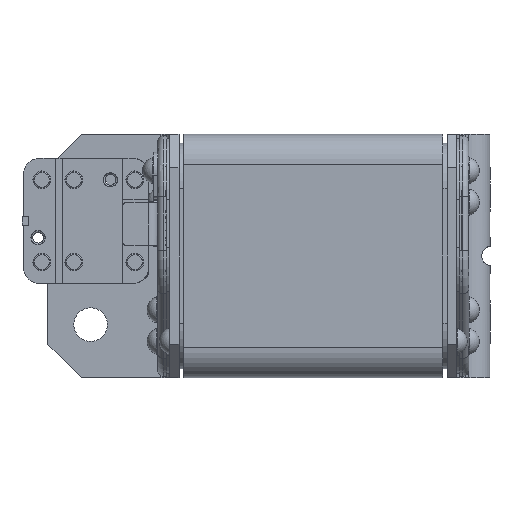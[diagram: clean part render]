
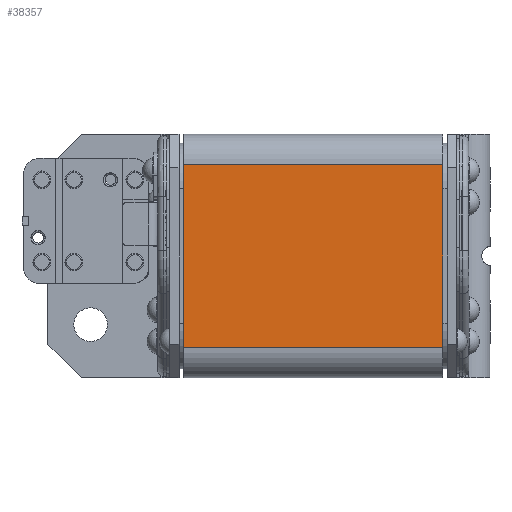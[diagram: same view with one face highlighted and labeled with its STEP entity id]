
A CAD part, left-side view. The second image highlights one B-rep face of the part: STEP entity #38357.
In plain terms, the highlighted planar face has unit normal (-1, 0, 0).
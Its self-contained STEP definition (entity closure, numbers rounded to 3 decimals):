
#369 = DIRECTION ( 'NONE',  ( 0., -1., 0. ) ) ;
#2909 = DIRECTION ( 'NONE',  ( 1., 0., 0. ) ) ;
#3812 = EDGE_CURVE ( 'NONE', #26843, #40453, #16816, .T. ) ;
#4353 = CARTESIAN_POINT ( 'NONE',  ( -40., -42.5, -30. ) ) ;
#5602 = VECTOR ( 'NONE', #6852, 1000. ) ;
#6136 = FACE_OUTER_BOUND ( 'NONE', #16021, .T. ) ;
#6779 = AXIS2_PLACEMENT_3D ( 'NONE', #17753, #2909, #28238 ) ;
#6852 = DIRECTION ( 'NONE',  ( 0., 0., 1. ) ) ;
#8338 = EDGE_CURVE ( 'NONE', #26843, #11246, #25356, .T. ) ;
#9150 = VECTOR ( 'NONE', #37373, 1000. ) ;
#11246 = VERTEX_POINT ( 'NONE', #4353 ) ;
#11481 = ORIENTED_EDGE ( 'NONE', *, *, #16751, .T. ) ;
#16021 = EDGE_LOOP ( 'NONE', ( #11481, #17393, #27823, #30248 ) ) ;
#16254 = LINE ( 'NONE', #37757, #31881 ) ;
#16751 = EDGE_CURVE ( 'NONE', #11246, #20212, #37834, .T. ) ;
#16816 = LINE ( 'NONE', #36429, #18252 ) ;
#17391 = DIRECTION ( 'NONE',  ( 0., 0., 1. ) ) ;
#17393 = ORIENTED_EDGE ( 'NONE', *, *, #21149, .F. ) ;
#17753 = CARTESIAN_POINT ( 'NONE',  ( -40., 42.5, -30. ) ) ;
#18252 = VECTOR ( 'NONE', #17391, 1000. ) ;
#20212 = VERTEX_POINT ( 'NONE', #36233 ) ;
#21149 = EDGE_CURVE ( 'NONE', #40453, #20212, #16254, .T. ) ;
#21842 = PLANE ( 'NONE',  #6779 ) ;
#23200 = CARTESIAN_POINT ( 'NONE',  ( -40., 42.5, 30. ) ) ;
#25356 = LINE ( 'NONE', #34961, #9150 ) ;
#26843 = VERTEX_POINT ( 'NONE', #39509 ) ;
#27823 = ORIENTED_EDGE ( 'NONE', *, *, #3812, .F. ) ;
#28238 = DIRECTION ( 'NONE',  ( 0., 0., -1. ) ) ;
#30248 = ORIENTED_EDGE ( 'NONE', *, *, #8338, .T. ) ;
#31881 = VECTOR ( 'NONE', #369, 1000. ) ;
#34961 = CARTESIAN_POINT ( 'NONE',  ( -40., 42.5, -30. ) ) ;
#36233 = CARTESIAN_POINT ( 'NONE',  ( -40., -42.5, 30. ) ) ;
#36429 = CARTESIAN_POINT ( 'NONE',  ( -40., 42.5, -30. ) ) ;
#37373 = DIRECTION ( 'NONE',  ( 0., -1., 0. ) ) ;
#37757 = CARTESIAN_POINT ( 'NONE',  ( -40., 42.5, 30. ) ) ;
#37834 = LINE ( 'NONE', #38498, #5602 ) ;
#38357 = ADVANCED_FACE ( 'NONE', ( #6136 ), #21842, .F. ) ;
#38498 = CARTESIAN_POINT ( 'NONE',  ( -40., -42.5, -30. ) ) ;
#39509 = CARTESIAN_POINT ( 'NONE',  ( -40., 42.5, -30. ) ) ;
#40453 = VERTEX_POINT ( 'NONE', #23200 ) ;
